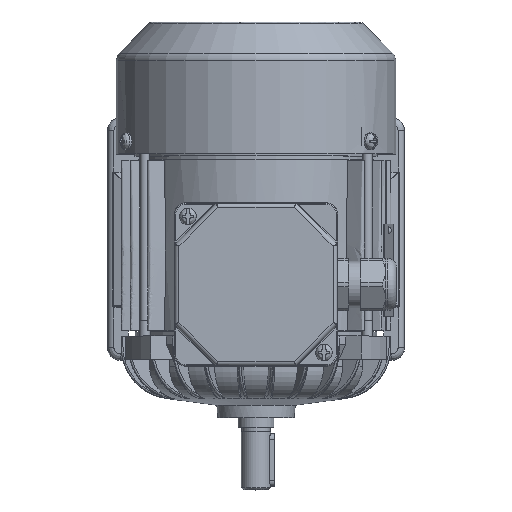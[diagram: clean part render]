
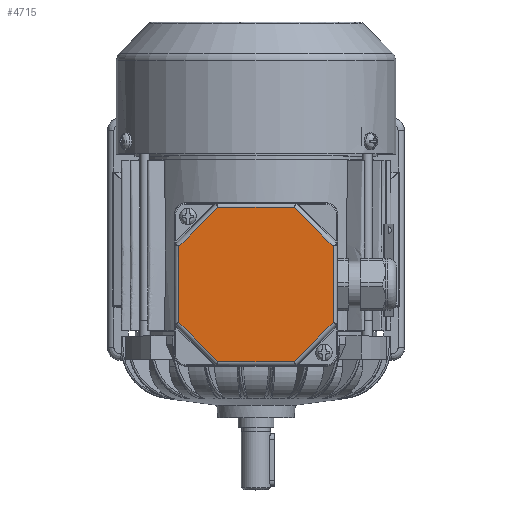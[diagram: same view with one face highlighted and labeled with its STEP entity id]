
A CAD part, top view. The second image highlights one B-rep face of the part: STEP entity #4715.
In plain terms, the highlighted planar face has unit normal (0, 0, 1).
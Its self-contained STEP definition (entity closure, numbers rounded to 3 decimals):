
#4715 = ADVANCED_FACE( '', ( #9642 ), #9643, .T. );
#9642 = FACE_OUTER_BOUND( '', #40519, .T. );
#9643 = PLANE( '', #40520 );
#40519 = EDGE_LOOP( '', ( #61719, #61720, #61721, #61722, #61723, #61724, #61725, #61726 ) );
#40520 = AXIS2_PLACEMENT_3D( '', #61727, #61728, #61729 );
#61719 = ORIENTED_EDGE( '', *, *, #69962, .T. );
#61720 = ORIENTED_EDGE( '', *, *, #72295, .T. );
#61721 = ORIENTED_EDGE( '', *, *, #72367, .T. );
#61722 = ORIENTED_EDGE( '', *, *, #71767, .T. );
#61723 = ORIENTED_EDGE( '', *, *, #69952, .T. );
#61724 = ORIENTED_EDGE( '', *, *, #72032, .T. );
#61725 = ORIENTED_EDGE( '', *, *, #67999, .T. );
#61726 = ORIENTED_EDGE( '', *, *, #67359, .T. );
#61727 = CARTESIAN_POINT( '', ( -39., 39., 12. ) );
#61728 = DIRECTION( '', ( 0., 0., 1. ) );
#61729 = DIRECTION( '', ( 1., 0., 0. ) );
#67359 = EDGE_CURVE( '', #79104, #79102, #79105, .T. );
#67999 = EDGE_CURVE( '', #80255, #79104, #80256, .F. );
#69952 = EDGE_CURVE( '', #83403, #83404, #83405, .F. );
#69962 = EDGE_CURVE( '', #79102, #83416, #83418, .F. );
#71767 = EDGE_CURVE( '', #85902, #83403, #85903, .T. );
#72032 = EDGE_CURVE( '', #83404, #80255, #86218, .T. );
#72295 = EDGE_CURVE( '', #83416, #86385, #86536, .T. );
#72367 = EDGE_CURVE( '', #86385, #85902, #86616, .F. );
#79102 = VERTEX_POINT( '', #90245 );
#79104 = VERTEX_POINT( '', #90247 );
#79105 = LINE( '', #90248, #90249 );
#80255 = VERTEX_POINT( '', #95446 );
#80256 = LINE( '', #95447, #95448 );
#83403 = VERTEX_POINT( '', #107476 );
#83404 = VERTEX_POINT( '', #107477 );
#83405 = LINE( '', #107478, #107479 );
#83416 = VERTEX_POINT( '', #107492 );
#83418 = LINE( '', #107494, #107495 );
#85902 = VERTEX_POINT( '', #118475 );
#85903 = LINE( '', #118476, #118477 );
#86218 = LINE( '', #119832, #119833 );
#86385 = VERTEX_POINT( '', #120252 );
#86536 = LINE( '', #120555, #120556 );
#86616 = LINE( '', #120730, #120731 );
#90245 = CARTESIAN_POINT( '', ( 36.825, -18.255, 12. ) );
#90247 = CARTESIAN_POINT( '', ( 18.255, -36.825, 12. ) );
#90248 = CARTESIAN_POINT( '', ( 37.401, -17.679, 12. ) );
#90249 = VECTOR( '', #126716, 1000. );
#95446 = CARTESIAN_POINT( '', ( -18.255, -36.825, 12. ) );
#95447 = CARTESIAN_POINT( '', ( 19.069, -36.825, 12. ) );
#95448 = VECTOR( '', #127462, 1000. );
#107476 = CARTESIAN_POINT( '', ( -36.825, 18.255, 12. ) );
#107477 = CARTESIAN_POINT( '', ( -36.825, -18.255, 12. ) );
#107478 = CARTESIAN_POINT( '', ( -36.825, -19.069, 12. ) );
#107479 = VECTOR( '', #129578, 1000. );
#107492 = CARTESIAN_POINT( '', ( 36.825, 18.255, 12. ) );
#107494 = CARTESIAN_POINT( '', ( 36.825, 19.069, 12. ) );
#107495 = VECTOR( '', #129596, 1000. );
#118475 = CARTESIAN_POINT( '', ( -18.255, 36.825, 12. ) );
#118476 = CARTESIAN_POINT( '', ( -37.401, 17.679, 12. ) );
#118477 = VECTOR( '', #131434, 1000. );
#119832 = CARTESIAN_POINT( '', ( -17.679, -37.401, 12. ) );
#119833 = VECTOR( '', #131657, 1000. );
#120252 = CARTESIAN_POINT( '', ( 18.255, 36.825, 12. ) );
#120555 = CARTESIAN_POINT( '', ( 17.679, 37.401, 12. ) );
#120556 = VECTOR( '', #131930, 1000. );
#120730 = CARTESIAN_POINT( '', ( -19.069, 36.825, 12. ) );
#120731 = VECTOR( '', #131977, 1000. );
#126716 = DIRECTION( '', ( 0.707, 0.707, 0. ) );
#127462 = DIRECTION( '', ( -1., 0., 0. ) );
#129578 = DIRECTION( '', ( 0., 1., 0. ) );
#129596 = DIRECTION( '', ( 0., -1., 0. ) );
#131434 = DIRECTION( '', ( -0.707, -0.707, 0. ) );
#131657 = DIRECTION( '', ( 0.707, -0.707, 0. ) );
#131930 = DIRECTION( '', ( -0.707, 0.707, 0. ) );
#131977 = DIRECTION( '', ( 1., 0., 0. ) );
